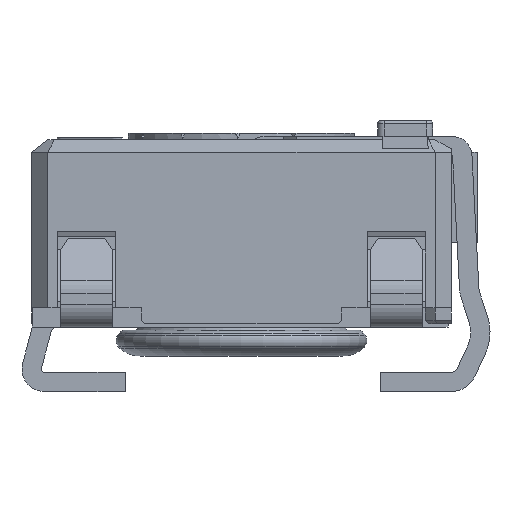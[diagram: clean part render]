
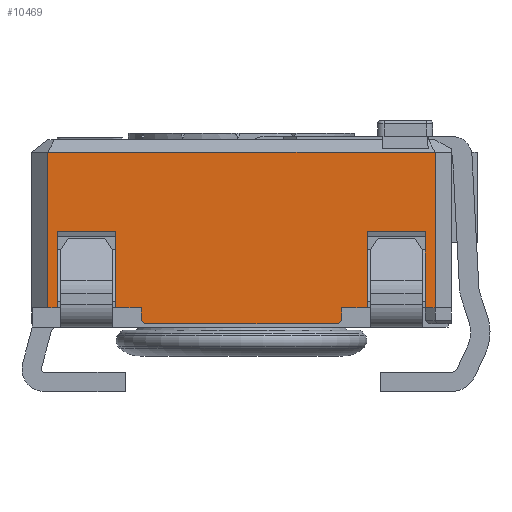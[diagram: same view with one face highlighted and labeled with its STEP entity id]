
A CAD part, left-side view. The second image highlights one B-rep face of the part: STEP entity #10469.
In plain terms, the highlighted planar face has unit normal (-1, 0, 0).
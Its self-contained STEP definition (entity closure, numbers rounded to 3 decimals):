
#940=FACE_OUTER_BOUND('',#1484,.T.);
#1484=EDGE_LOOP('',(#8962,#8963,#8964,#8965,#8966,#8967,#8968,#8969,#8970,
#8971,#8972,#8973,#8974,#8975,#8976,#8977,#8978,#8979));
#2123=LINE('',#15877,#3302);
#2242=LINE('',#16140,#3421);
#2248=LINE('',#16153,#3427);
#2254=LINE('',#16164,#3433);
#2260=LINE('',#16175,#3439);
#2265=LINE('',#16185,#3444);
#2268=LINE('',#16191,#3447);
#2300=LINE('',#16253,#3479);
#2324=LINE('',#16308,#3503);
#2336=LINE('',#16328,#3515);
#2338=LINE('',#16333,#3517);
#2347=LINE('',#16352,#3526);
#2349=LINE('',#16355,#3528);
#2369=LINE('',#16396,#3548);
#2549=LINE('',#16851,#3728);
#2562=LINE('',#16875,#3741);
#2563=LINE('',#16877,#3742);
#2564=LINE('',#16879,#3743);
#3302=VECTOR('',#12817,10.);
#3421=VECTOR('',#13002,10.);
#3427=VECTOR('',#13010,10.);
#3433=VECTOR('',#13016,10.);
#3439=VECTOR('',#13024,10.);
#3444=VECTOR('',#13031,10.);
#3447=VECTOR('',#13036,10.);
#3479=VECTOR('',#13078,10.);
#3503=VECTOR('',#13130,10.);
#3515=VECTOR('',#13150,10.);
#3517=VECTOR('',#13154,10.);
#3526=VECTOR('',#13175,10.);
#3528=VECTOR('',#13179,10.);
#3548=VECTOR('',#13213,10.);
#3728=VECTOR('',#13643,10.);
#3741=VECTOR('',#13664,10.);
#3742=VECTOR('',#13667,10.);
#3743=VECTOR('',#13670,10.);
#4447=VERTEX_POINT('',#15874);
#4448=VERTEX_POINT('',#15876);
#4558=VERTEX_POINT('',#16137);
#4559=VERTEX_POINT('',#16139);
#4563=VERTEX_POINT('',#16149);
#4565=VERTEX_POINT('',#16152);
#4570=VERTEX_POINT('',#16162);
#4573=VERTEX_POINT('',#16172);
#4577=VERTEX_POINT('',#16182);
#4580=VERTEX_POINT('',#16189);
#4603=VERTEX_POINT('',#16240);
#4605=VERTEX_POINT('',#16252);
#4622=VERTEX_POINT('',#16304);
#4627=VERTEX_POINT('',#16330);
#4632=VERTEX_POINT('',#16351);
#4768=VERTEX_POINT('',#16848);
#4769=VERTEX_POINT('',#16850);
#4776=VERTEX_POINT('',#16873);
#5656=EDGE_CURVE('',#4448,#4447,#2123,.T.);
#5791=EDGE_CURVE('',#4559,#4558,#2242,.T.);
#5797=EDGE_CURVE('',#4565,#4563,#2248,.T.);
#5803=EDGE_CURVE('',#4558,#4570,#2254,.T.);
#5809=EDGE_CURVE('',#4563,#4573,#2260,.T.);
#5814=EDGE_CURVE('',#4573,#4577,#2265,.T.);
#5817=EDGE_CURVE('',#4577,#4580,#2268,.T.);
#5849=EDGE_CURVE('',#4605,#4559,#2300,.T.);
#5879=EDGE_CURVE('',#4447,#4605,#2324,.T.);
#5891=EDGE_CURVE('',#4448,#4622,#2336,.T.);
#5893=EDGE_CURVE('',#4570,#4627,#2338,.T.);
#5902=EDGE_CURVE('',#4632,#4603,#2347,.T.);
#5904=EDGE_CURVE('',#4622,#4603,#2349,.T.);
#5925=EDGE_CURVE('',#4580,#4632,#2369,.T.);
#6148=EDGE_CURVE('',#4768,#4769,#2549,.T.);
#6161=EDGE_CURVE('',#4776,#4627,#2562,.T.);
#6162=EDGE_CURVE('',#4776,#4769,#2563,.T.);
#6163=EDGE_CURVE('',#4768,#4565,#2564,.T.);
#8962=ORIENTED_EDGE('',*,*,#6161,.F.);
#8963=ORIENTED_EDGE('',*,*,#6162,.T.);
#8964=ORIENTED_EDGE('',*,*,#6148,.F.);
#8965=ORIENTED_EDGE('',*,*,#6163,.T.);
#8966=ORIENTED_EDGE('',*,*,#5797,.T.);
#8967=ORIENTED_EDGE('',*,*,#5809,.T.);
#8968=ORIENTED_EDGE('',*,*,#5814,.T.);
#8969=ORIENTED_EDGE('',*,*,#5817,.T.);
#8970=ORIENTED_EDGE('',*,*,#5925,.T.);
#8971=ORIENTED_EDGE('',*,*,#5902,.T.);
#8972=ORIENTED_EDGE('',*,*,#5904,.F.);
#8973=ORIENTED_EDGE('',*,*,#5891,.F.);
#8974=ORIENTED_EDGE('',*,*,#5656,.T.);
#8975=ORIENTED_EDGE('',*,*,#5879,.T.);
#8976=ORIENTED_EDGE('',*,*,#5849,.T.);
#8977=ORIENTED_EDGE('',*,*,#5791,.T.);
#8978=ORIENTED_EDGE('',*,*,#5803,.T.);
#8979=ORIENTED_EDGE('',*,*,#5893,.T.);
#9756=PLANE('',#11269);
#10469=ADVANCED_FACE('',(#940),#9756,.T.);
#11269=AXIS2_PLACEMENT_3D('',#17060,#13872,#13873);
#12817=DIRECTION('',(0.,-1.,0.));
#13002=DIRECTION('',(0.,0.,-1.));
#13010=DIRECTION('',(0.,-1.,0.));
#13016=DIRECTION('',(0.,-1.,0.));
#13024=DIRECTION('',(0.,0.,1.));
#13031=DIRECTION('',(0.,-1.,0.));
#13036=DIRECTION('',(0.,0.,-1.));
#13078=DIRECTION('',(0.,-1.,0.));
#13130=DIRECTION('',(0.,0.,1.));
#13150=DIRECTION('',(0.,0.,1.));
#13154=DIRECTION('',(0.,0.,-1.));
#13175=DIRECTION('',(0.,0.,1.));
#13179=DIRECTION('',(0.,-1.,0.));
#13213=DIRECTION('',(0.,-1.,0.));
#13643=DIRECTION('',(0.,0.707,-0.707));
#13664=DIRECTION('',(0.,0.707,0.707));
#13667=DIRECTION('',(0.,-1.,0.));
#13670=DIRECTION('',(0.,0.,1.));
#13872=DIRECTION('center_axis',(-1.,0.,0.));
#13873=DIRECTION('ref_axis',(0.,0.,1.));
#15874=CARTESIAN_POINT('',(-14.26,-8.882,0.25));
#15876=CARTESIAN_POINT('',(-14.26,-8.732,0.25));
#15877=CARTESIAN_POINT('',(-14.26,-13.244,0.25));
#16137=CARTESIAN_POINT('',(-14.26,-9.782,0.25));
#16139=CARTESIAN_POINT('',(-14.26,-9.782,1.425));
#16140=CARTESIAN_POINT('',(-14.26,-9.782,0.387));
#16149=CARTESIAN_POINT('',(-14.26,-13.682,0.25));
#16152=CARTESIAN_POINT('',(-14.26,-13.282,0.25));
#16153=CARTESIAN_POINT('',(-14.26,-13.244,0.25));
#16162=CARTESIAN_POINT('',(-14.26,-10.182,0.25));
#16164=CARTESIAN_POINT('',(-14.26,-13.244,0.25));
#16172=CARTESIAN_POINT('',(-14.26,-13.682,1.425));
#16175=CARTESIAN_POINT('',(-14.26,-13.682,0.387));
#16182=CARTESIAN_POINT('',(-14.26,-14.582,1.425));
#16185=CARTESIAN_POINT('',(-14.26,-14.657,1.425));
#16189=CARTESIAN_POINT('',(-14.26,-14.582,0.25));
#16191=CARTESIAN_POINT('',(-14.26,-14.582,0.387));
#16240=CARTESIAN_POINT('',(-14.26,-14.732,2.655));
#16252=CARTESIAN_POINT('',(-14.26,-8.882,1.425));
#16253=CARTESIAN_POINT('',(-14.26,-11.807,1.425));
#16304=CARTESIAN_POINT('',(-14.26,-8.732,2.655));
#16308=CARTESIAN_POINT('',(-14.26,-8.882,0.387));
#16328=CARTESIAN_POINT('',(-14.26,-8.732,0.));
#16330=CARTESIAN_POINT('',(-14.26,-10.182,0.05));
#16333=CARTESIAN_POINT('',(-14.26,-10.182,0.));
#16351=CARTESIAN_POINT('',(-14.26,-14.732,0.25));
#16352=CARTESIAN_POINT('',(-14.26,-14.732,0.));
#16355=CARTESIAN_POINT('',(-14.26,-13.232,2.655));
#16396=CARTESIAN_POINT('',(-14.26,-13.244,0.25));
#16848=CARTESIAN_POINT('',(-14.26,-13.282,0.05));
#16850=CARTESIAN_POINT('',(-14.26,-13.232,0.));
#16851=CARTESIAN_POINT('',(-14.26,-13.619,0.388));
#16873=CARTESIAN_POINT('',(-14.26,-10.232,0.));
#16875=CARTESIAN_POINT('',(-14.26,-11.344,-1.113));
#16877=CARTESIAN_POINT('',(-14.26,-8.732,0.));
#16879=CARTESIAN_POINT('',(-14.26,-13.282,0.));
#17060=CARTESIAN_POINT('Origin',(-14.26,-14.732,0.));
